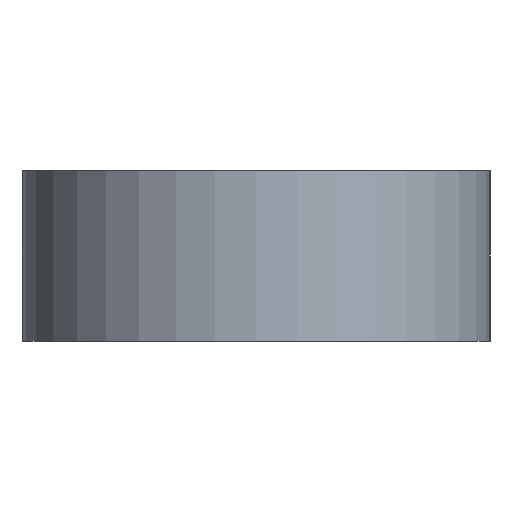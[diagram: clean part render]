
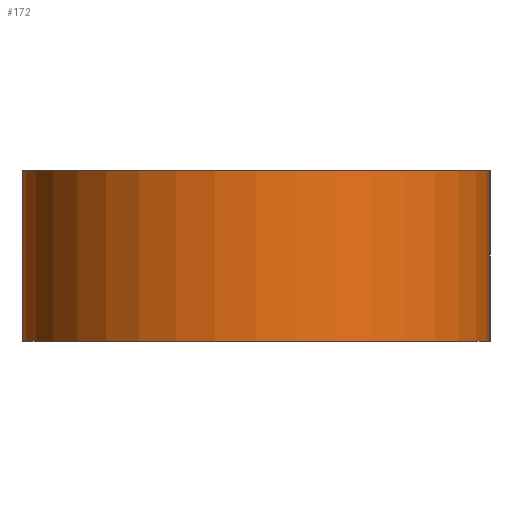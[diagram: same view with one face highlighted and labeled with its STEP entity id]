
A CAD part, left-side view. The second image highlights one B-rep face of the part: STEP entity #172.
In plain terms, the highlighted cylindrical face has radius 3.493 mm (diameter 6.985 mm), a partial arc.
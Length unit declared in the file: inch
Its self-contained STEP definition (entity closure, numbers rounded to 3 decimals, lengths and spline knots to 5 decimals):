
#3 = DIRECTION ( 'NONE',  ( 1., 0., 0. ) ) ;
#6 = CARTESIAN_POINT ( 'NONE',  ( -1.055, -0.1375, 0.1 ) ) ;
#16 = VERTEX_POINT ( 'NONE', #120 ) ;
#22 = DIRECTION ( 'NONE',  ( 1., 0., 0. ) ) ;
#24 = FACE_OUTER_BOUND ( 'NONE', #330, .T. ) ;
#38 = CARTESIAN_POINT ( 'NONE',  ( -1.055, 0., 0.1 ) ) ;
#53 = AXIS2_PLACEMENT_3D ( 'NONE', #141, #338, #22 ) ;
#56 = CIRCLE ( 'NONE', #281, 0.1375 ) ;
#71 = EDGE_CURVE ( 'NONE', #223, #165, #217, .T. ) ;
#100 = CYLINDRICAL_SURFACE ( 'NONE', #213, 0.1375 ) ;
#120 = CARTESIAN_POINT ( 'NONE',  ( -1.055, 0.1375, 0. ) ) ;
#126 = DIRECTION ( 'NONE',  ( 0., 0., -1. ) ) ;
#135 = LINE ( 'NONE', #361, #286 ) ;
#141 = CARTESIAN_POINT ( 'NONE',  ( -1.055, 0., 0.1 ) ) ;
#149 = ORIENTED_EDGE ( 'NONE', *, *, #362, .T. ) ;
#165 = VERTEX_POINT ( 'NONE', #6 ) ;
#171 = LINE ( 'NONE', #324, #351 ) ;
#172 = ADVANCED_FACE ( 'NONE', ( #24 ), #100, .T. ) ;
#213 = AXIS2_PLACEMENT_3D ( 'NONE', #38, #126, #357 ) ;
#217 = CIRCLE ( 'NONE', #53, 0.1375 ) ;
#223 = VERTEX_POINT ( 'NONE', #265 ) ;
#263 = DIRECTION ( 'NONE',  ( 0., 0., -1. ) ) ;
#265 = CARTESIAN_POINT ( 'NONE',  ( -1.055, 0.1375, 0.1 ) ) ;
#270 = ORIENTED_EDGE ( 'NONE', *, *, #409, .T. ) ;
#281 = AXIS2_PLACEMENT_3D ( 'NONE', #290, #391, #3 ) ;
#286 = VECTOR ( 'NONE', #263, 39.37008 ) ;
#290 = CARTESIAN_POINT ( 'NONE',  ( -1.055, 0., 0. ) ) ;
#295 = DIRECTION ( 'NONE',  ( 0., 0., -1. ) ) ;
#300 = ORIENTED_EDGE ( 'NONE', *, *, #320, .F. ) ;
#320 = EDGE_CURVE ( 'NONE', #165, #333, #135, .T. ) ;
#324 = CARTESIAN_POINT ( 'NONE',  ( -1.055, 0.1375, 0.1 ) ) ;
#330 = EDGE_LOOP ( 'NONE', ( #149, #300, #376, #270 ) ) ;
#333 = VERTEX_POINT ( 'NONE', #398 ) ;
#338 = DIRECTION ( 'NONE',  ( 0., 0., 1. ) ) ;
#351 = VECTOR ( 'NONE', #295, 39.37008 ) ;
#357 = DIRECTION ( 'NONE',  ( -1., 0., 0. ) ) ;
#361 = CARTESIAN_POINT ( 'NONE',  ( -1.055, -0.1375, 0.1 ) ) ;
#362 = EDGE_CURVE ( 'NONE', #16, #333, #56, .T. ) ;
#376 = ORIENTED_EDGE ( 'NONE', *, *, #71, .F. ) ;
#391 = DIRECTION ( 'NONE',  ( 0., 0., 1. ) ) ;
#398 = CARTESIAN_POINT ( 'NONE',  ( -1.055, -0.1375, 0. ) ) ;
#409 = EDGE_CURVE ( 'NONE', #223, #16, #171, .T. ) ;
